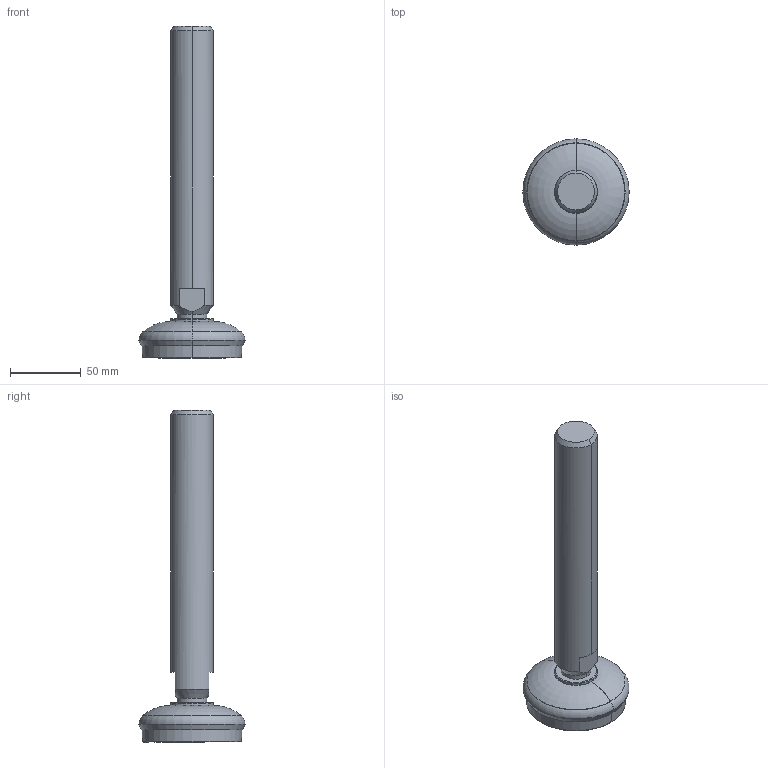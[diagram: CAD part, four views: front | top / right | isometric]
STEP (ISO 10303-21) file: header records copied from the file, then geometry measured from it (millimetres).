
FILE_DESCRIPTION (( 'STEP AP214' ), '1' );
FILE_NAME ('8567840.STEP', '2024-01-24T12:13:49', ( '' ), ( '' ), 'SwSTEP 2.0', 'SolidWorks 2022', '' );
FILE_SCHEMA (( 'AUTOMOTIVE_DESIGN' ));
Length unit declared in the file: millimetre
Products named in the file (1): 8567840
Bounding box: 74.99 x 74.99 x 234.37 mm (x, y, z)
Volume: 236352.1 mm3; surface area: 48468.2 mm2
Topology: 4 solids, 4 shells, 120 faces, 242 edges, 144 vertices
Faces by surface type: cone 36, torus 34, plane 26, cylinder 24
Entity records: 4665 total; most frequent: DIRECTION 652, CARTESIAN_POINT 629, ORIENTED_EDGE 484, AXIS2_PLACEMENT_3D 293, EDGE_CURVE 242, CIRCLE 172, VERTEX_POINT 144, EDGE_LOOP 138
